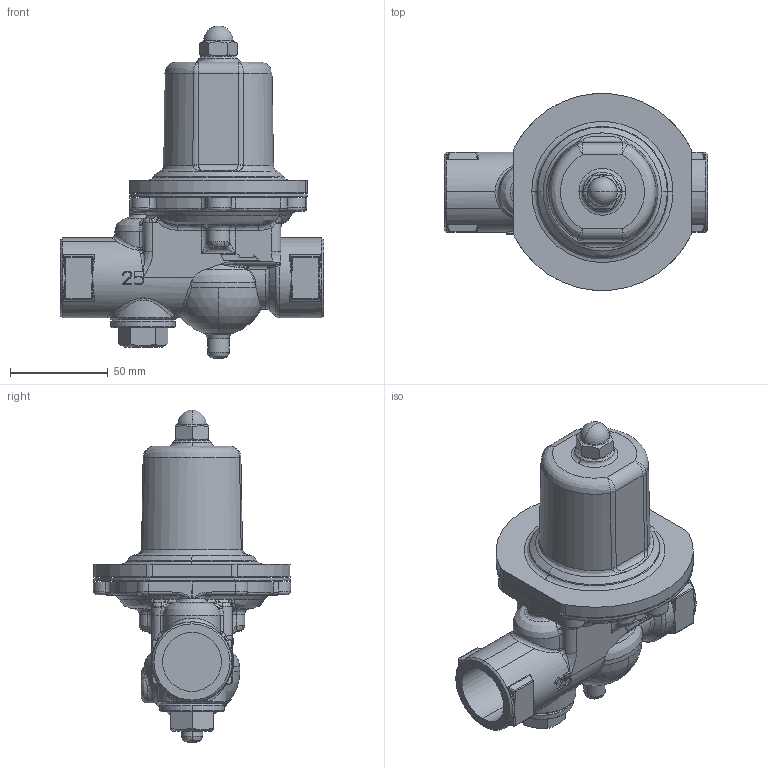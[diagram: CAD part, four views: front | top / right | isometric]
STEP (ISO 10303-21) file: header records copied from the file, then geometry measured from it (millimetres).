
FILE_DESCRIPTION( (''), '2;1');
FILE_NAME ('PC1276.2220.GD-26-NE 25A_26213.stp','2025-06-09T14:57:29',(''),(''),'spGate 20.6.3 (****-****-****-****)','','');
FILE_SCHEMA (('AUTOMOTIVE_DESIGN'));
Length unit declared in the file: millimetre
Products named in the file (6): Assembly; GD-26-NE 弁箱 25A; GD-26-NE ダイヤフラム 15-25A; GD-26-NE 保護筒 15-25A; GD-26-NE 六角袋ナット 15-25A; GD-26-NE ストレーナキャップ 25A
Assembly tree (5 placements, depth 2):
  Assembly
    GD-26-NE 弁箱 25A
    GD-26-NE ダイヤフラム 15-25A
    GD-26-NE 保護筒 15-25A
    GD-26-NE 六角袋ナット 15-25A
    GD-26-NE ストレーナキャップ 25A
Bounding box: 135 x 101 x 170 mm (x, y, z)
Volume: 502922.5 mm3; surface area: 87076.2 mm2
Topology: 5 solids, 5 shells, 597 faces, 1447 edges, 824 vertices
Faces by surface type: bspline 311, cylinder 154, plane 98, sphere 34
Entity records: 39983 total; most frequent: CARTESIAN_POINT 17276, ORIENTED_EDGE 2790, COLOUR_RGB 1997, PRESENTATION_STYLE_ASSIGNMENT 1997, STYLED_ITEM 1997, DIRECTION 1854, EDGE_CURVE 1395, DRAUGHTING_PRE_DEFINED_CURVE_FONT 1395
